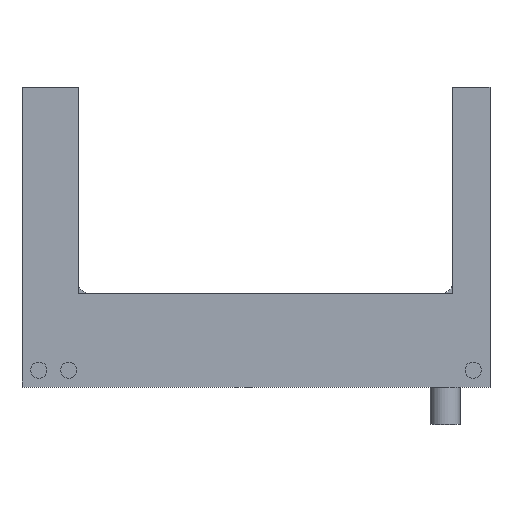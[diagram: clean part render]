
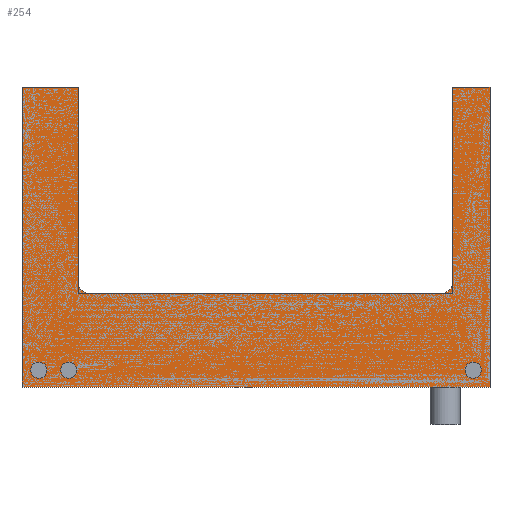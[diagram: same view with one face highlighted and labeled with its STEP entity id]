
A CAD part, top view. The second image highlights one B-rep face of the part: STEP entity #254.
In plain terms, the highlighted planar face has unit normal (0, 0, 1).
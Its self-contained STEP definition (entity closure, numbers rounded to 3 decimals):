
#66 = VERTEX_POINT('',#67);
#67 = CARTESIAN_POINT('',(15.,80.,10.));
#73 = EDGE_CURVE('',#66,#74,#76,.T.);
#74 = VERTEX_POINT('',#75);
#75 = CARTESIAN_POINT('',(15.,28.,10.));
#76 = LINE('',#77,#78);
#77 = CARTESIAN_POINT('',(15.,80.,10.));
#78 = VECTOR('',#79,1.);
#79 = DIRECTION('',(0.,-1.,0.));
#211 = VERTEX_POINT('',#212);
#212 = CARTESIAN_POINT('',(18.,25.,10.));
#218 = EDGE_CURVE('',#74,#211,#219,.T.);
#219 = CIRCLE('',#220,3.);
#220 = AXIS2_PLACEMENT_3D('',#221,#222,#223);
#221 = CARTESIAN_POINT('',(18.,28.,10.));
#222 = DIRECTION('',(-0.,0.,1.));
#223 = DIRECTION('',(0.,-1.,0.));
#235 = VERTEX_POINT('',#236);
#236 = CARTESIAN_POINT('',(0.,80.,10.));
#242 = EDGE_CURVE('',#235,#66,#243,.T.);
#243 = LINE('',#244,#245);
#244 = CARTESIAN_POINT('',(0.,80.,10.));
#245 = VECTOR('',#246,1.);
#246 = DIRECTION('',(1.,0.,0.));
#254 = ADVANCED_FACE('',(#255,#315,#326,#337),#348,.T.);
#255 = FACE_BOUND('',#256,.T.);
#256 = EDGE_LOOP('',(#257,#258,#259,#267,#275,#283,#291,#299,#308,#314)
  );
#257 = ORIENTED_EDGE('',*,*,#73,.F.);
#258 = ORIENTED_EDGE('',*,*,#242,.F.);
#259 = ORIENTED_EDGE('',*,*,#260,.F.);
#260 = EDGE_CURVE('',#261,#235,#263,.T.);
#261 = VERTEX_POINT('',#262);
#262 = CARTESIAN_POINT('',(0.,0.,10.));
#263 = LINE('',#264,#265);
#264 = CARTESIAN_POINT('',(0.,0.,10.));
#265 = VECTOR('',#266,1.);
#266 = DIRECTION('',(0.,1.,0.));
#267 = ORIENTED_EDGE('',*,*,#268,.F.);
#268 = EDGE_CURVE('',#269,#261,#271,.T.);
#269 = VERTEX_POINT('',#270);
#270 = CARTESIAN_POINT('',(125.,0.,10.));
#271 = LINE('',#272,#273);
#272 = CARTESIAN_POINT('',(125.,0.,10.));
#273 = VECTOR('',#274,1.);
#274 = DIRECTION('',(-1.,0.,0.));
#275 = ORIENTED_EDGE('',*,*,#276,.F.);
#276 = EDGE_CURVE('',#277,#269,#279,.T.);
#277 = VERTEX_POINT('',#278);
#278 = CARTESIAN_POINT('',(125.,80.,10.));
#279 = LINE('',#280,#281);
#280 = CARTESIAN_POINT('',(125.,80.,10.));
#281 = VECTOR('',#282,1.);
#282 = DIRECTION('',(0.,-1.,0.));
#283 = ORIENTED_EDGE('',*,*,#284,.F.);
#284 = EDGE_CURVE('',#285,#277,#287,.T.);
#285 = VERTEX_POINT('',#286);
#286 = CARTESIAN_POINT('',(115.,80.,10.));
#287 = LINE('',#288,#289);
#288 = CARTESIAN_POINT('',(115.,80.,10.));
#289 = VECTOR('',#290,1.);
#290 = DIRECTION('',(1.,0.,0.));
#291 = ORIENTED_EDGE('',*,*,#292,.F.);
#292 = EDGE_CURVE('',#293,#285,#295,.T.);
#293 = VERTEX_POINT('',#294);
#294 = CARTESIAN_POINT('',(115.,28.,10.));
#295 = LINE('',#296,#297);
#296 = CARTESIAN_POINT('',(115.,25.,10.));
#297 = VECTOR('',#298,1.);
#298 = DIRECTION('',(0.,1.,0.));
#299 = ORIENTED_EDGE('',*,*,#300,.F.);
#300 = EDGE_CURVE('',#301,#293,#303,.T.);
#301 = VERTEX_POINT('',#302);
#302 = CARTESIAN_POINT('',(112.,25.,10.));
#303 = CIRCLE('',#304,3.);
#304 = AXIS2_PLACEMENT_3D('',#305,#306,#307);
#305 = CARTESIAN_POINT('',(112.,28.,10.));
#306 = DIRECTION('',(-0.,0.,1.));
#307 = DIRECTION('',(0.,-1.,0.));
#308 = ORIENTED_EDGE('',*,*,#309,.F.);
#309 = EDGE_CURVE('',#211,#301,#310,.T.);
#310 = LINE('',#311,#312);
#311 = CARTESIAN_POINT('',(15.,25.,10.));
#312 = VECTOR('',#313,1.);
#313 = DIRECTION('',(1.,0.,0.));
#314 = ORIENTED_EDGE('',*,*,#218,.F.);
#315 = FACE_BOUND('',#316,.T.);
#316 = EDGE_LOOP('',(#317));
#317 = ORIENTED_EDGE('',*,*,#318,.F.);
#318 = EDGE_CURVE('',#319,#319,#321,.T.);
#319 = VERTEX_POINT('',#320);
#320 = CARTESIAN_POINT('',(6.65,4.5,10.));
#321 = CIRCLE('',#322,2.15);
#322 = AXIS2_PLACEMENT_3D('',#323,#324,#325);
#323 = CARTESIAN_POINT('',(4.5,4.5,10.));
#324 = DIRECTION('',(0.,0.,1.));
#325 = DIRECTION('',(1.,0.,0.));
#326 = FACE_BOUND('',#327,.T.);
#327 = EDGE_LOOP('',(#328));
#328 = ORIENTED_EDGE('',*,*,#329,.F.);
#329 = EDGE_CURVE('',#330,#330,#332,.T.);
#330 = VERTEX_POINT('',#331);
#331 = CARTESIAN_POINT('',(14.65,4.5,10.));
#332 = CIRCLE('',#333,2.15);
#333 = AXIS2_PLACEMENT_3D('',#334,#335,#336);
#334 = CARTESIAN_POINT('',(12.5,4.5,10.));
#335 = DIRECTION('',(0.,0.,1.));
#336 = DIRECTION('',(1.,0.,0.));
#337 = FACE_BOUND('',#338,.T.);
#338 = EDGE_LOOP('',(#339));
#339 = ORIENTED_EDGE('',*,*,#340,.F.);
#340 = EDGE_CURVE('',#341,#341,#343,.T.);
#341 = VERTEX_POINT('',#342);
#342 = CARTESIAN_POINT('',(122.65,4.5,10.));
#343 = CIRCLE('',#344,2.15);
#344 = AXIS2_PLACEMENT_3D('',#345,#346,#347);
#345 = CARTESIAN_POINT('',(120.5,4.5,10.));
#346 = DIRECTION('',(0.,0.,1.));
#347 = DIRECTION('',(1.,0.,0.));
#348 = PLANE('',#349);
#349 = AXIS2_PLACEMENT_3D('',#350,#351,#352);
#350 = CARTESIAN_POINT('',(63.029,32.067,10.));
#351 = DIRECTION('',(0.,0.,1.));
#352 = DIRECTION('',(1.,0.,0.));
